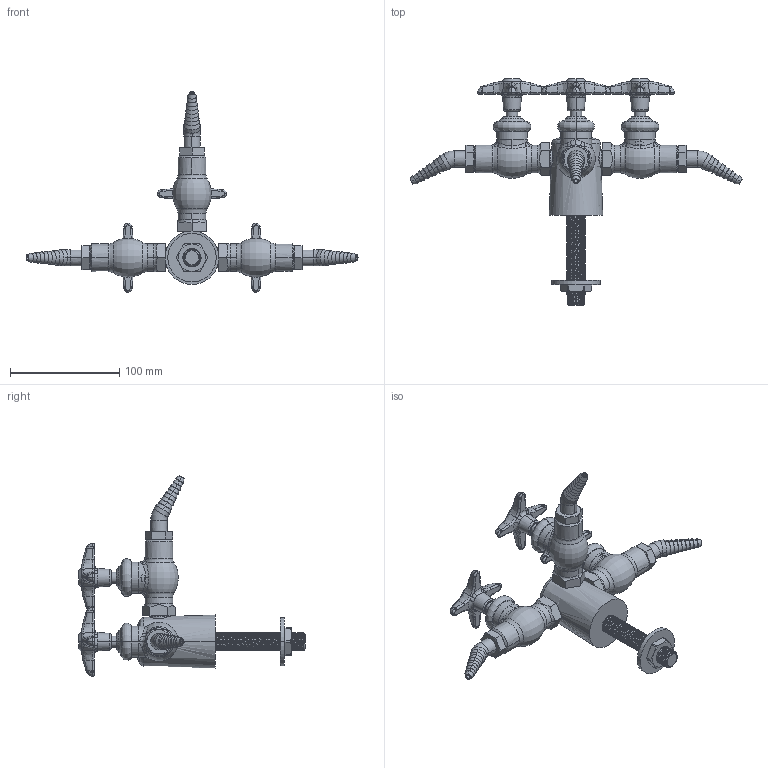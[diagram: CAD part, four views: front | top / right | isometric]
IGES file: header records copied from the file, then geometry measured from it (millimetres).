
Start section:  PTC IGES file: LSV1-A21-30.igs
Global section: file name: LSV1-A21-30.igs; native system: Creo Parametric by PTC Inc.; preprocessor: 2014500; author: usch_engrender; organization: Unknown; date: 20151125.122756; units: inch
Bounding box: 304.35 x 207.59 x 183.88 mm (x, y, z)
Volume: 374442.3 mm3; surface area: 84759.5 mm2
Topology: 1 solids, 8 shells, 1080 faces, 2536 edges, 1528 vertices
Faces by surface type: bspline 628, revolution 452
